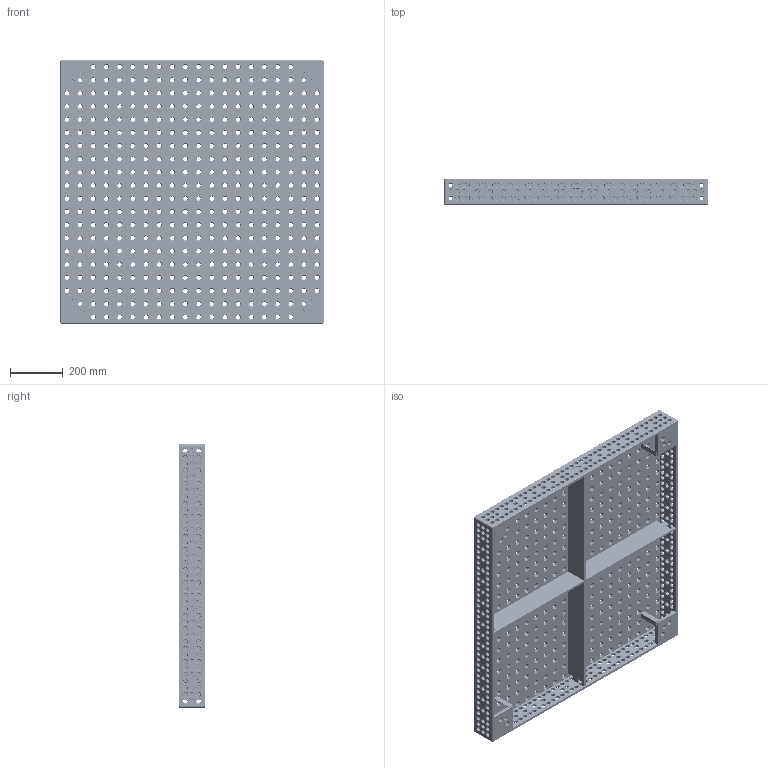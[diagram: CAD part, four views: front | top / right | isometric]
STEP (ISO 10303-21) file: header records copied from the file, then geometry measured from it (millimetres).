
FILE_DESCRIPTION (( 'STEP AP203' ), '1' );
FILE_NAME ('160010.X7D.T1 - 16003123, 16003123, 16003124, 16001979, , , , , , , .step', '2022-06-03T12:53:08', ( '' ), ( '' ), 'SwSTEP 2.0', 'SolidWorks 2020', '' );
FILE_SCHEMA (( 'CONFIG_CONTROL_DESIGN' ));
Length unit declared in the file: millimetre
Products named in the file (1): 160010.X7D.T1 - 16003123, 16003123, 16003124, 16001979, , , , , , , 
Bounding box: 1000 x 100 x 1000 mm (x, y, z)
Volume: 15866830.7 mm3; surface area: 3286427.4 mm2
Topology: 3 solids, 3 shells, 4997 faces, 11704 edges, 6712 vertices
Faces by surface type: cone 1652, cylinder 1640, torus 1604, plane 93, bspline 8
Entity records: 147991 total; most frequent: DIRECTION 29808, CARTESIAN_POINT 24654, ORIENTED_EDGE 23408, AXIS2_PLACEMENT_3D 13130, EDGE_CURVE 11704, CIRCLE 8140, VERTEX_POINT 6712, EDGE_LOOP 6628
